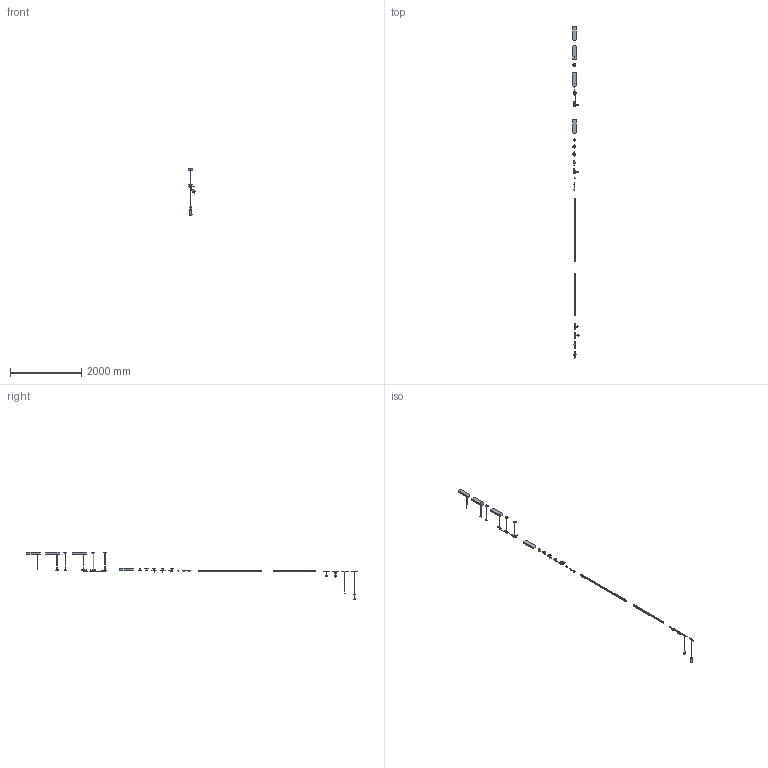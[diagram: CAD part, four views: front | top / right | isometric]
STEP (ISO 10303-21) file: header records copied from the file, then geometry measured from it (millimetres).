
FILE_DESCRIPTION(/* description */ (''),/* implementation_level */ '2;1');
FILE_NAME(/* name */ 'Gople System All Modules',/* time_stamp */ '2023-03-13T11:14:16+01:00',/* author */ (''),/* organization */ (''),/* preprocessor_version */ 'ST-DEVELOPER v16.5',/* originating_system */ 'Rhino 7.27',/* authorisation */ '');
FILE_SCHEMA (('AUTOMOTIVE_DESIGN'));
Products named in the file (1): Document
Bounding box: 196.93 x 9290.43 x 1325.44 mm (x, y, z)
Volume: 15622592.7 mm3; surface area: 1777231.2 mm2
Topology: 75 solids, 117 shells, 2056 faces, 5175 edges, 3433 vertices
Faces by surface type: plane 895, bspline 668, cylinder 493
Entity records: 114675 total; most frequent: CARTESIAN_POINT 74380, ORIENTED_EDGE 9990, EDGE_CURVE 5062, VERTEX_POINT 3329, B_SPLINE_CURVE_WITH_KNOTS 2302, EDGE_LOOP 2205, ADVANCED_FACE 2034, FACE_OUTER_BOUND 2034
